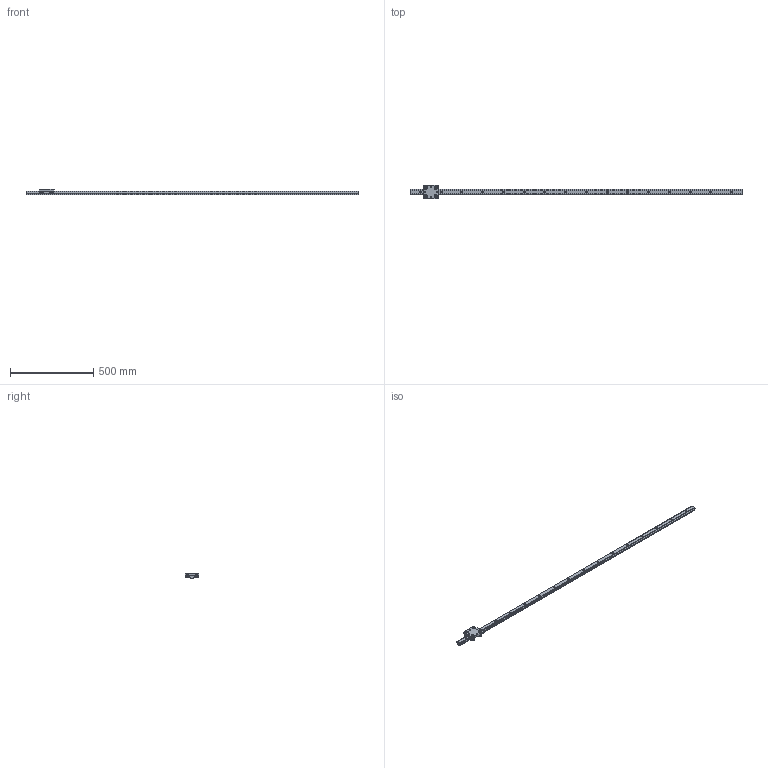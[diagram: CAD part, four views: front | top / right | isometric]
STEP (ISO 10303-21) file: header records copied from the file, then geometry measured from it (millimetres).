
FILE_DESCRIPTION((''),'2;1');
FILE_NAME('C:\Documents and Settings\土屋\My Documents\土屋移動用フォルダ\製品 (図面)\改正SPDRダウンロード用図面\step形式\SPDR30R.stp','2017-07-18T16:49:34',('y'),(''),'Autodesk Inventor 11','Autodesk Inventor 11','');
FILE_SCHEMA(('AUTOMOTIVE_DESIGN { 1 0 10303 214 1 1 1 1 }'));
Length unit declared in the file: millimetre
Products named in the file (3): SPDR30R; SPDR30Rレール; SPDR30Rキャリッジ
Assembly tree (2 placements, depth 2):
  SPDR30R
    SPDR30Rレール
    SPDR30Rキャリッジ
Bounding box: 2000 x 80 x 35.5 mm (x, y, z)
Volume: 1128802.5 mm3; surface area: 232875.5 mm2
Topology: 2 solids, 2 shells, 214 faces, 470 edges, 300 vertices
Faces by surface type: plane 70, bspline 64, cone 48, cylinder 32
Full cylindrical faces by diameter (mm): 6 x4, 12.3 x4, 16 x4, 24 x8
Entity records: 6306 total; most frequent: CARTESIAN_POINT 2145, DIRECTION 796, ORIENTED_EDGE 780, EDGE_CURVE 390, EDGE_LOOP 358, AXIS2_PLACEMENT_3D 347, VERTEX_POINT 284, FACE_OUTER_BOUND 214
